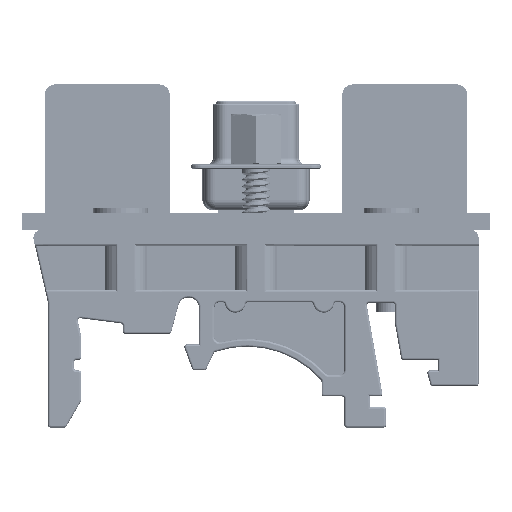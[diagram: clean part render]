
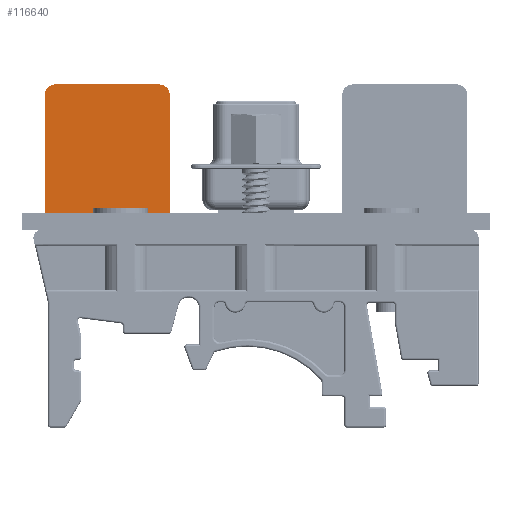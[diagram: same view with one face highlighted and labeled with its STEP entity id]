
A CAD part, left-side view. The second image highlights one B-rep face of the part: STEP entity #116640.
In plain terms, the highlighted planar face has unit normal (-1, 0, 0) as drawn and (0, 0, -1) by its records, which use the part's own axes.
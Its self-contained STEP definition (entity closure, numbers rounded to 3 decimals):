
#116640 = ADVANCED_FACE('',(#116641),#116693,.T.);
#116641 = FACE_BOUND('',#116642,.T.);
#116642 = EDGE_LOOP('',(#116643,#116653,#116661,#116669,#116678,#116686)
  );
#116643 = ORIENTED_EDGE('',*,*,#116644,.T.);
#116644 = EDGE_CURVE('',#116645,#116647,#116649,.T.);
#116645 = VERTEX_POINT('',#116646);
#116646 = CARTESIAN_POINT('',(6.,11.4,-0.463));
#116647 = VERTEX_POINT('',#116648);
#116648 = CARTESIAN_POINT('',(6.,0.,-0.463));
#116649 = LINE('',#116650,#116651);
#116650 = CARTESIAN_POINT('',(6.,11.4,-0.463));
#116651 = VECTOR('',#116652,1.);
#116652 = DIRECTION('',(-0.,-1.,-0.));
#116653 = ORIENTED_EDGE('',*,*,#116654,.T.);
#116654 = EDGE_CURVE('',#116647,#116655,#116657,.T.);
#116655 = VERTEX_POINT('',#116656);
#116656 = CARTESIAN_POINT('',(-6.,0.,-0.463));
#116657 = LINE('',#116658,#116659);
#116658 = CARTESIAN_POINT('',(-5.,0.,-0.463));
#116659 = VECTOR('',#116660,1.);
#116660 = DIRECTION('',(-1.,0.,-0.));
#116661 = ORIENTED_EDGE('',*,*,#116662,.T.);
#116662 = EDGE_CURVE('',#116655,#116663,#116665,.T.);
#116663 = VERTEX_POINT('',#116664);
#116664 = CARTESIAN_POINT('',(-6.,11.4,-0.463));
#116665 = LINE('',#116666,#116667);
#116666 = CARTESIAN_POINT('',(-6.,11.4,-0.463));
#116667 = VECTOR('',#116668,1.);
#116668 = DIRECTION('',(0.,1.,0.));
#116669 = ORIENTED_EDGE('',*,*,#116670,.T.);
#116670 = EDGE_CURVE('',#116663,#116671,#116673,.T.);
#116671 = VERTEX_POINT('',#116672);
#116672 = CARTESIAN_POINT('',(-5.,12.4,-0.463));
#116673 = CIRCLE('',#116674,1.);
#116674 = AXIS2_PLACEMENT_3D('',#116675,#116676,#116677);
#116675 = CARTESIAN_POINT('',(-5.,11.4,-0.463));
#116676 = DIRECTION('',(-0.,0.,-1.));
#116677 = DIRECTION('',(-1.,0.,0.));
#116678 = ORIENTED_EDGE('',*,*,#116679,.T.);
#116679 = EDGE_CURVE('',#116671,#116680,#116682,.T.);
#116680 = VERTEX_POINT('',#116681);
#116681 = CARTESIAN_POINT('',(5.,12.4,-0.463));
#116682 = LINE('',#116683,#116684);
#116683 = CARTESIAN_POINT('',(-5.,12.4,-0.463));
#116684 = VECTOR('',#116685,1.);
#116685 = DIRECTION('',(1.,-0.,0.));
#116686 = ORIENTED_EDGE('',*,*,#116687,.T.);
#116687 = EDGE_CURVE('',#116680,#116645,#116688,.T.);
#116688 = CIRCLE('',#116689,1.);
#116689 = AXIS2_PLACEMENT_3D('',#116690,#116691,#116692);
#116690 = CARTESIAN_POINT('',(5.,11.4,-0.463));
#116691 = DIRECTION('',(-0.,0.,-1.));
#116692 = DIRECTION('',(-1.,0.,0.));
#116693 = PLANE('',#116694);
#116694 = AXIS2_PLACEMENT_3D('',#116695,#116696,#116697);
#116695 = CARTESIAN_POINT('',(-5.,11.4,-0.463));
#116696 = DIRECTION('',(0.,0.,-1.));
#116697 = DIRECTION('',(-1.,0.,-0.));
